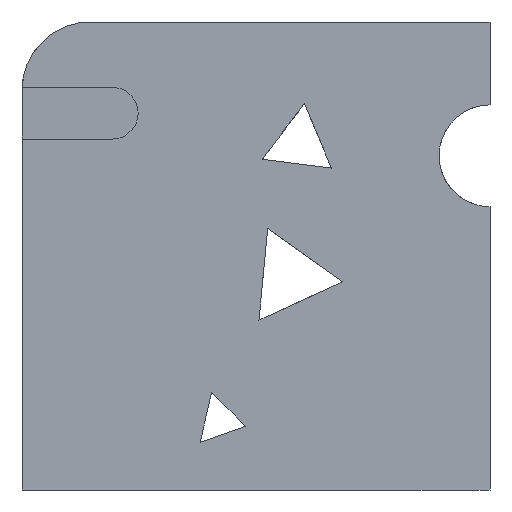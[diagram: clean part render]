
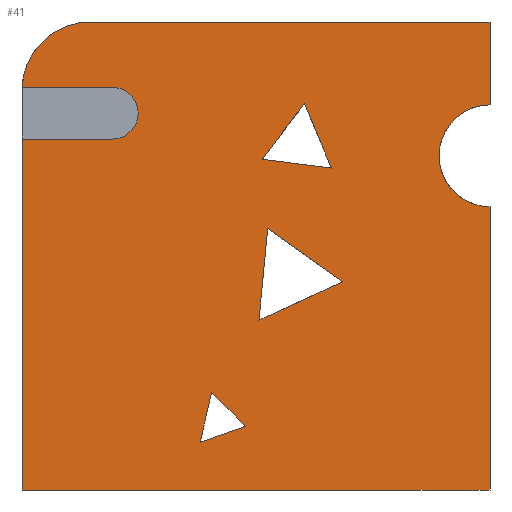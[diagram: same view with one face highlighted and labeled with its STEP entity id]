
A CAD part, left-side view. The second image highlights one B-rep face of the part: STEP entity #41.
In plain terms, the highlighted planar face has unit normal (-1, 0, 0).
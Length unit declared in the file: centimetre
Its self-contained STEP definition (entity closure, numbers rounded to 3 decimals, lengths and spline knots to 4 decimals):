
#15 = CARTESIAN_POINT ( 'NONE',  ( 0., 0., 714.0451 ) ) ;
#27 = VERTEX_POINT ( 'NONE', #569 ) ;
#41 = ADVANCED_FACE ( 'NONE', ( #1131, #968, #1536, #824 ), #1512, .F. ) ;
#54 = VERTEX_POINT ( 'NONE', #1271 ) ;
#66 = LINE ( 'NONE', #643, #1331 ) ;
#113 = CARTESIAN_POINT ( 'NONE',  ( 0., 396.5757, 825.6124 ) ) ;
#131 = EDGE_CURVE ( 'NONE', #276, #838, #1673, .T. ) ;
#133 = ORIENTED_EDGE ( 'NONE', *, *, #1696, .F. ) ;
#144 = LINE ( 'NONE', #1649, #659 ) ;
#174 = LINE ( 'NONE', #435, #1551 ) ;
#177 = LINE ( 'NONE', #726, #1161 ) ;
#195 = CARTESIAN_POINT ( 'NONE',  ( 0., 475.0145, 559.27 ) ) ;
#199 = CARTESIAN_POINT ( 'NONE',  ( 0., 1000., 749.9284 ) ) ;
#210 = DIRECTION ( 'NONE',  ( 0., -0.222, 0.975 ) ) ;
#231 = DIRECTION ( 'NONE',  ( 0., 0.942, -0.336 ) ) ;
#248 = DIRECTION ( 'NONE',  ( 0., -0.707, -0.707 ) ) ;
#260 = ORIENTED_EDGE ( 'NONE', *, *, #1575, .T. ) ;
#263 = EDGE_LOOP ( 'NONE', ( #448, #1624, #1412, #260, #133, #403, #1557, #694, #1312, #915 ) ) ;
#272 = LINE ( 'NONE', #1075, #314 ) ;
#276 = VERTEX_POINT ( 'NONE', #1591 ) ;
#314 = VECTOR ( 'NONE', #1627, 100. ) ;
#355 = EDGE_CURVE ( 'NONE', #1151, #838, #909, .T. ) ;
#356 = DIRECTION ( 'NONE',  ( 0., 0.909, -0.416 ) ) ;
#403 = ORIENTED_EDGE ( 'NONE', *, *, #1685, .F. ) ;
#405 = VECTOR ( 'NONE', #356, 100. ) ;
#407 = CARTESIAN_POINT ( 'NONE',  ( 0., 314.3007, 444.906 ) ) ;
#435 = CARTESIAN_POINT ( 'NONE',  ( 0., 1000., 1000. ) ) ;
#443 = AXIS2_PLACEMENT_3D ( 'NONE', #1399, #676, #1115 ) ;
#448 = ORIENTED_EDGE ( 'NONE', *, *, #1070, .F. ) ;
#454 = CARTESIAN_POINT ( 'NONE',  ( 0., 396.5757, 825.6124 ) ) ;
#473 = VERTEX_POINT ( 'NONE', #582 ) ;
#484 = DIRECTION ( 'NONE',  ( 0., -0.387, -0.922 ) ) ;
#496 = CARTESIAN_POINT ( 'NONE',  ( 0., 1000., 1000. ) ) ;
#529 = EDGE_CURVE ( 'NONE', #1269, #553, #1111, .T. ) ;
#546 = VERTEX_POINT ( 'NONE', #1393 ) ;
#553 = VERTEX_POINT ( 'NONE', #971 ) ;
#569 = CARTESIAN_POINT ( 'NONE',  ( 0., 619.28, 101.839 ) ) ;
#571 = CARTESIAN_POINT ( 'NONE',  ( 0., 807.0476, 749.9284 ) ) ;
#578 = CARTESIAN_POINT ( 'NONE',  ( 0., 1000., 860.2999 ) ) ;
#582 = CARTESIAN_POINT ( 'NONE',  ( 0., 594.9612, 208.5217 ) ) ;
#629 = DIRECTION ( 'NONE',  ( 0., 0.992, 0.126 ) ) ;
#637 = VERTEX_POINT ( 'NONE', #1447 ) ;
#639 = VECTOR ( 'NONE', #1411, 100. ) ;
#643 = CARTESIAN_POINT ( 'NONE',  ( 0., 594.9612, 208.5217 ) ) ;
#659 = VECTOR ( 'NONE', #248, 100. ) ;
#673 = VECTOR ( 'NONE', #1056, 100. ) ;
#675 = EDGE_LOOP ( 'NONE', ( #882, #1245, #853 ) ) ;
#676 = DIRECTION ( 'NONE',  ( 1., 0., 0. ) ) ;
#681 = DIRECTION ( 'NONE',  ( 0., -1., 0. ) ) ;
#688 = ORIENTED_EDGE ( 'NONE', *, *, #1371, .T. ) ;
#694 = ORIENTED_EDGE ( 'NONE', *, *, #1007, .F. ) ;
#723 = ORIENTED_EDGE ( 'NONE', *, *, #1731, .T. ) ;
#726 = CARTESIAN_POINT ( 'NONE',  ( 0., 314.3007, 444.906 ) ) ;
#747 = LINE ( 'NONE', #1057, #1508 ) ;
#748 = EDGE_LOOP ( 'NONE', ( #1656, #905, #1378 ) ) ;
#771 = CARTESIAN_POINT ( 'NONE',  ( 0., 522.6926, 136.2531 ) ) ;
#801 = VERTEX_POINT ( 'NONE', #1090 ) ;
#824 = FACE_OUTER_BOUND ( 'NONE', #263, .T. ) ;
#838 = VERTEX_POINT ( 'NONE', #1074 ) ;
#843 = CIRCLE ( 'NONE', #1369, 55.1857 ) ;
#853 = ORIENTED_EDGE ( 'NONE', *, *, #1214, .T. ) ;
#862 = VECTOR ( 'NONE', #681, 100. ) ;
#882 = ORIENTED_EDGE ( 'NONE', *, *, #1487, .T. ) ;
#899 = EDGE_CURVE ( 'NONE', #1269, #1470, #1251, .T. ) ;
#905 = ORIENTED_EDGE ( 'NONE', *, *, #1167, .T. ) ;
#909 = CIRCLE ( 'NONE', #1517, 146.14 ) ;
#915 = ORIENTED_EDGE ( 'NONE', *, *, #131, .F. ) ;
#917 = VECTOR ( 'NONE', #231, 100. ) ;
#924 = EDGE_CURVE ( 'NONE', #1347, #27, #1341, .T. ) ;
#953 = DIRECTION ( 'NONE',  ( 0., 0., 1. ) ) ;
#968 = FACE_BOUND ( 'NONE', #675, .T. ) ;
#971 = CARTESIAN_POINT ( 'NONE',  ( 0., 807.0476, 749.9284 ) ) ;
#983 = DIRECTION ( 'NONE',  ( 0., 1., 0. ) ) ;
#991 = DIRECTION ( 'NONE',  ( 0., -1., 0. ) ) ;
#995 = DIRECTION ( 'NONE',  ( 0., -0.815, -0.58 ) ) ;
#998 = EDGE_LOOP ( 'NONE', ( #723, #1081, #688 ) ) ;
#1007 = EDGE_CURVE ( 'NONE', #1151, #1125, #174, .T. ) ;
#1019 = CARTESIAN_POINT ( 'NONE',  ( 0., 807.0476, 805.1141 ) ) ;
#1031 = EDGE_CURVE ( 'NONE', #1125, #1228, #1155, .T. ) ;
#1041 = CARTESIAN_POINT ( 'NONE',  ( 0., 853.86, 1000. ) ) ;
#1048 = LINE ( 'NONE', #1590, #405 ) ;
#1050 = VECTOR ( 'NONE', #1704, 100. ) ;
#1056 = DIRECTION ( 'NONE',  ( 0., 0., -1. ) ) ;
#1057 = CARTESIAN_POINT ( 'NONE',  ( 0., 487.0318, 706.6008 ) ) ;
#1068 = DIRECTION ( 'NONE',  ( -1., 0., 0. ) ) ;
#1070 = EDGE_CURVE ( 'NONE', #553, #276, #843, .T. ) ;
#1073 = VERTEX_POINT ( 'NONE', #454 ) ;
#1074 = CARTESIAN_POINT ( 'NONE',  ( 0., 999.858, 860.2999 ) ) ;
#1075 = CARTESIAN_POINT ( 'NONE',  ( 0., 0., 1000. ) ) ;
#1081 = ORIENTED_EDGE ( 'NONE', *, *, #1767, .T. ) ;
#1090 = CARTESIAN_POINT ( 'NONE',  ( 0., 475.0145, 559.27 ) ) ;
#1103 = AXIS2_PLACEMENT_3D ( 'NONE', #15, #1633, #953 ) ;
#1111 = LINE ( 'NONE', #571, #639 ) ;
#1115 = DIRECTION ( 'NONE',  ( 0., 0., -1. ) ) ;
#1125 = VERTEX_POINT ( 'NONE', #1483 ) ;
#1131 = FACE_BOUND ( 'NONE', #748, .T. ) ;
#1151 = VERTEX_POINT ( 'NONE', #1041 ) ;
#1155 = LINE ( 'NONE', #1277, #1789 ) ;
#1161 = VECTOR ( 'NONE', #995, 100. ) ;
#1167 = EDGE_CURVE ( 'NONE', #27, #473, #66, .T. ) ;
#1170 = CARTESIAN_POINT ( 'NONE',  ( 0., 0., 0. ) ) ;
#1174 = LINE ( 'NONE', #1730, #1651 ) ;
#1192 = CARTESIAN_POINT ( 'NONE',  ( 0., 0., 822.9045 ) ) ;
#1214 = EDGE_CURVE ( 'NONE', #1073, #637, #1174, .T. ) ;
#1228 = VERTEX_POINT ( 'NONE', #1192 ) ;
#1245 = ORIENTED_EDGE ( 'NONE', *, *, #1267, .T. ) ;
#1251 = LINE ( 'NONE', #496, #673 ) ;
#1267 = EDGE_CURVE ( 'NONE', #54, #1073, #1345, .T. ) ;
#1268 = DIRECTION ( 'NONE',  ( 0., 0., -1. ) ) ;
#1269 = VERTEX_POINT ( 'NONE', #199 ) ;
#1271 = CARTESIAN_POINT ( 'NONE',  ( 0., 487.0318, 706.6008 ) ) ;
#1275 = VECTOR ( 'NONE', #983, 100. ) ;
#1277 = CARTESIAN_POINT ( 'NONE',  ( 0., 0., 1000. ) ) ;
#1299 = VECTOR ( 'NONE', #1459, 100. ) ;
#1312 = ORIENTED_EDGE ( 'NONE', *, *, #355, .T. ) ;
#1331 = VECTOR ( 'NONE', #210, 100. ) ;
#1341 = LINE ( 'NONE', #1625, #917 ) ;
#1345 = LINE ( 'NONE', #113, #1299 ) ;
#1347 = VERTEX_POINT ( 'NONE', #771 ) ;
#1369 = AXIS2_PLACEMENT_3D ( 'NONE', #1019, #1414, #1571 ) ;
#1371 = EDGE_CURVE ( 'NONE', #1688, #546, #1048, .T. ) ;
#1378 = ORIENTED_EDGE ( 'NONE', *, *, #1669, .T. ) ;
#1393 = CARTESIAN_POINT ( 'NONE',  ( 0., 493.6997, 362.9057 ) ) ;
#1399 = CARTESIAN_POINT ( 'NONE',  ( 0., 1000., 1000. ) ) ;
#1410 = LINE ( 'NONE', #195, #1050 ) ;
#1411 = DIRECTION ( 'NONE',  ( 0., -1., 0. ) ) ;
#1412 = ORIENTED_EDGE ( 'NONE', *, *, #899, .T. ) ;
#1414 = DIRECTION ( 'NONE',  ( -1., 0., 0. ) ) ;
#1447 = CARTESIAN_POINT ( 'NONE',  ( 0., 338.7366, 687.7693 ) ) ;
#1449 = VERTEX_POINT ( 'NONE', #1170 ) ;
#1459 = DIRECTION ( 'NONE',  ( 0., -0.605, 0.796 ) ) ;
#1470 = VERTEX_POINT ( 'NONE', #1746 ) ;
#1481 = DIRECTION ( 'NONE',  ( 0., 0., -1. ) ) ;
#1483 = CARTESIAN_POINT ( 'NONE',  ( 0., 0., 1000. ) ) ;
#1487 = EDGE_CURVE ( 'NONE', #637, #54, #747, .T. ) ;
#1491 = CARTESIAN_POINT ( 'NONE',  ( 0., 1000., 0. ) ) ;
#1492 = CARTESIAN_POINT ( 'NONE',  ( 0., 853.86, 853.86 ) ) ;
#1508 = VECTOR ( 'NONE', #629, 100. ) ;
#1512 = PLANE ( 'NONE',  #443 ) ;
#1517 = AXIS2_PLACEMENT_3D ( 'NONE', #1492, #1068, #1481 ) ;
#1523 = LINE ( 'NONE', #1491, #862 ) ;
#1536 = FACE_BOUND ( 'NONE', #998, .T. ) ;
#1538 = VERTEX_POINT ( 'NONE', #1736 ) ;
#1551 = VECTOR ( 'NONE', #991, 100. ) ;
#1557 = ORIENTED_EDGE ( 'NONE', *, *, #1031, .F. ) ;
#1571 = DIRECTION ( 'NONE',  ( 0., 0., -1. ) ) ;
#1575 = EDGE_CURVE ( 'NONE', #1470, #1449, #1523, .T. ) ;
#1590 = CARTESIAN_POINT ( 'NONE',  ( 0., 493.6997, 362.9057 ) ) ;
#1591 = CARTESIAN_POINT ( 'NONE',  ( 0., 807.0476, 860.2999 ) ) ;
#1624 = ORIENTED_EDGE ( 'NONE', *, *, #529, .F. ) ;
#1625 = CARTESIAN_POINT ( 'NONE',  ( 0., 619.28, 101.839 ) ) ;
#1627 = DIRECTION ( 'NONE',  ( 0., 0., -1. ) ) ;
#1633 = DIRECTION ( 'NONE',  ( -1., 0., 0. ) ) ;
#1649 = CARTESIAN_POINT ( 'NONE',  ( 0., 522.6926, 136.2531 ) ) ;
#1651 = VECTOR ( 'NONE', #484, 100. ) ;
#1656 = ORIENTED_EDGE ( 'NONE', *, *, #924, .T. ) ;
#1669 = EDGE_CURVE ( 'NONE', #473, #1347, #144, .T. ) ;
#1673 = LINE ( 'NONE', #578, #1275 ) ;
#1678 = CIRCLE ( 'NONE', #1103, 108.8594 ) ;
#1685 = EDGE_CURVE ( 'NONE', #1228, #1538, #1678, .T. ) ;
#1688 = VERTEX_POINT ( 'NONE', #407 ) ;
#1696 = EDGE_CURVE ( 'NONE', #1538, #1449, #272, .T. ) ;
#1704 = DIRECTION ( 'NONE',  ( 0., -0.095, 0.996 ) ) ;
#1730 = CARTESIAN_POINT ( 'NONE',  ( 0., 338.7366, 687.7693 ) ) ;
#1731 = EDGE_CURVE ( 'NONE', #546, #801, #1410, .T. ) ;
#1736 = CARTESIAN_POINT ( 'NONE',  ( 0., 0., 605.1856 ) ) ;
#1746 = CARTESIAN_POINT ( 'NONE',  ( 0., 1000., 0. ) ) ;
#1767 = EDGE_CURVE ( 'NONE', #801, #1688, #177, .T. ) ;
#1789 = VECTOR ( 'NONE', #1268, 100. ) ;
